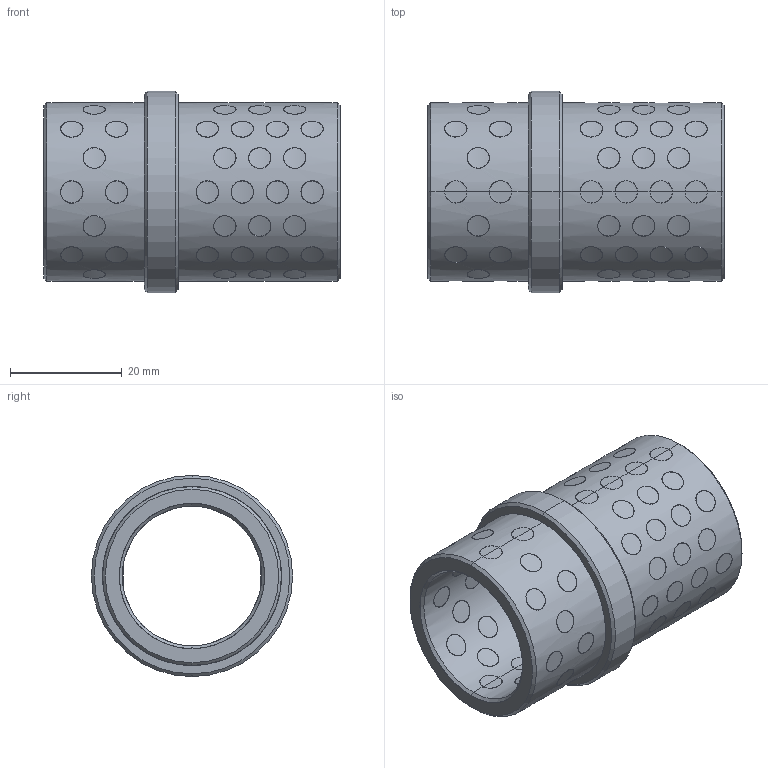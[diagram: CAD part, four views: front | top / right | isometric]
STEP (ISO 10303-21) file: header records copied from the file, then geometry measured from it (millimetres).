
FILE_DESCRIPTION(('CATIA V5 STEP Exchange'),'2;1');
FILE_NAME('C:\Users\Utente\Desktop\3D files G402\G4022535.stp','2020-04-22T08:43:38+00:00',('none'),('none'),'CATIA Version 5 Release 20 GA (IN-10)','CATIA V5 STEP AP203','none');
FILE_SCHEMA(('CONFIG_CONTROL_DESIGN'));
Products named in the file (1): G4022535
Bounding box: 53 x 36 x 36 mm (x, y, z)
Surface area: 17426.4 mm2 (no closed solid volume)
Topology: 0 solids, 528 shells, 528 faces, 2304 edges, 2304 vertices
Faces by surface type: cylinder 512, revolution 12, plane 4
Entity records: 46975 total; most frequent: CARTESIAN_POINT 31034, ORIENTED_EDGE 2304, EDGE_CURVE 2304, VERTEX_POINT 2304, DIRECTION 1867, B_SPLINE_CURVE_WITH_KNOTS 1493, VECTOR 776, LINE 776
